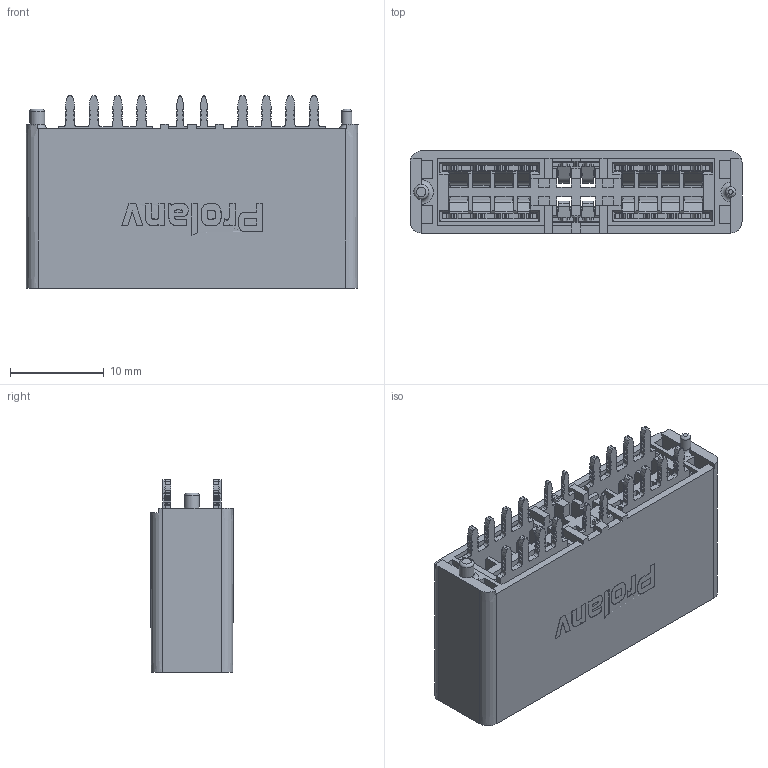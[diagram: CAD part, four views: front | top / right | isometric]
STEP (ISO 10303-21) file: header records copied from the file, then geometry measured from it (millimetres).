
FILE_DESCRIPTION(/* description */ (''),/* implementation_level */ '2;1');
FILE_NAME(/* name */ 'PDC5410C0001 石头档.stp',/* time_stamp */ '2025-03-03T15:50:18+08:00',/* author */ (''),/* organization */ (''),/* preprocessor_version */ 'ST-DEVELOPER v16.7',/* originating_system */ 'SIEMENS PLM Software NX 1946',/* authorisation */ '');
FILE_SCHEMA (('AUTOMOTIVE_DESIGN { 1 0 10303 214 3 1 1 1 }'));
Products named in the file (1): _model2
Bounding box: 35.4 x 8.8 x 20.5 mm (x, y, z)
Volume: 3106.1 mm3; surface area: 6810.7 mm2
Topology: 1 solids, 1 shells, 2097 faces, 6266 edges, 4149 vertices
Faces by surface type: plane 1056, cylinder 881, extrusion 136, cone 20, torus 3, bspline 1
Full cylindrical faces by diameter (mm): 1.1 x1, 1.6 x1
Entity records: 79262 total; most frequent: CARTESIAN_POINT 15228, ORIENTED_EDGE 12520, DIRECTION 11784, EDGE_CURVE 6260, VECTOR 4198, VERTEX_POINT 4147, LINE 4062, AXIS2_PLACEMENT_3D 3793
